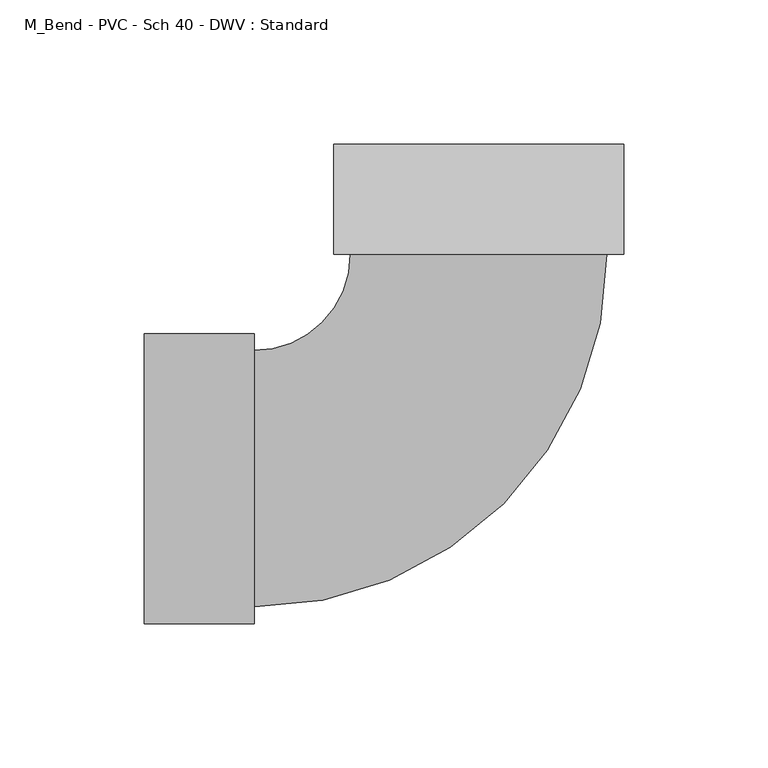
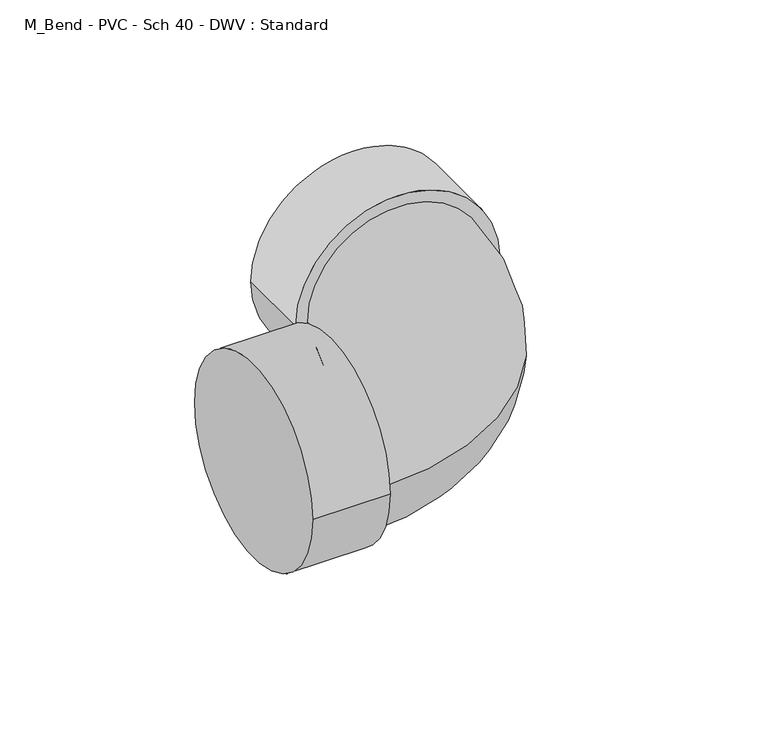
"""IFC4 building model written with IfcOpenShell, lengths in millimetres: pipe fitting geometry, M_Bend - PVC - Sch 40 - DWV : Standard."""

from ifc_helpers import new_model, si_unit, point, frame, origin, place, context, project, spatial, circle_curve, ellipse_curve, trimmed, source, transform, mapped, element, save
from ifc_brep_helpers import plane_surface, cylinder_surface, revolved_surface, advanced_brep


def m_bend_pvc_sch_40_dwv_standard_41353a0c(model_context):
    return source(origin(), model_context, "Body", "AdvancedBrep", [
        advanced_brep(
        [(-115.9002, -50.2666, 0.0), (-115.9002, 50.2666, 0.0), (-77.8002, -50.2666, 0.0), (-77.8002, 50.2666, 0.0), (-77.8002, -44.45, 0.0), (-77.8002, 44.45, 0.0), (-44.4487404, 77.8009196, 0.0), (44.4512596, 77.7994803, 0.0), (50.2678596, 77.7993862, 0.0), (-50.2653404, 77.8010138, 0.0), (50.2684765, 115.8993862, 0.0), (-50.2647235, 115.9010138, 0.0)],
        [
            (0, 1, circle_curve(frame((-115.9002, 0.0, 0.0), z_axis=(-1.0, 0.0, 0.0), x_axis=(0.0, 1.0, 0.0)), 50.2666)),
            (1, 0, circle_curve(frame((-115.9002, 0.0, 0.0), z_axis=(-1.0, 0.0, 0.0), x_axis=(0.0, 1.0, 0.0)), 50.2666)),
            (2, 3, circle_curve(frame((-77.8002, 0.0, 0.0), z_axis=(1.0, 0.0, 0.0), x_axis=(0.0, 1.0, 0.0)), 50.2666)),
            (3, 2, circle_curve(frame((-77.8002, 0.0, 0.0), z_axis=(1.0, 0.0, 0.0), x_axis=(0.0, 1.0, 0.0)), 50.2666)),
            (4, 5, circle_curve(frame((-77.8002, 0.0, 0.0), z_axis=(-1.0, 0.0, 0.0), x_axis=(0.0, 1.0, 0.0)), 44.45)),
            (5, 4, circle_curve(frame((-77.8002, 0.0, 0.0), z_axis=(-1.0, 0.0, 0.0), x_axis=(0.0, 1.0, 0.0)), 44.45)),
            (0, 2),
            (3, 1),
            (6, 5, circle_curve(frame((-77.8002, 77.8014596, 0.0), z_axis=(0.0, 0.0, -1.0), x_axis=(0.0, -1.0, 0.0)), 33.3514596)),
            (4, 7, circle_curve(frame((-77.8002, 77.8014596, 0.0), z_axis=(0.0, 0.0, 1.0), x_axis=(0.0, -1.0, 0.0)), 122.2514596)),
            (7, 6, circle_curve(frame((0.0012596, 77.8002, 0.0), z_axis=(-1.619028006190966e-05, -0.9999999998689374, 0.0), x_axis=(-0.9999999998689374, 1.619028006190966e-05, 0.0)), 44.45)),
            (6, 7, circle_curve(frame((0.0012596, 77.8002, 0.0), z_axis=(-1.619028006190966e-05, -0.9999999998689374, 0.0), x_axis=(-0.9999999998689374, 1.619028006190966e-05, 0.0)), 44.45)),
            (8, 9, circle_curve(frame((0.0012596, 77.8002, 0.0), z_axis=(-1.6190280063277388e-05, -0.9999999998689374, 0.0), x_axis=(-0.9999999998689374, 1.6190280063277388e-05, 0.0)), 50.2666)),
            (9, 8, circle_curve(frame((0.0012596, 77.8002, 0.0), z_axis=(-1.6190280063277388e-05, -0.9999999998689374, 0.0), x_axis=(-0.9999999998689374, 1.6190280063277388e-05, 0.0)), 50.2666)),
            (10, 11, circle_curve(frame((0.0018765, 115.9002, 0.0), z_axis=(1.6190280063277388e-05, 0.9999999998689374, 0.0), x_axis=(-0.9999999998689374, 1.6190280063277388e-05, 0.0)), 50.2666)),
            (11, 10, circle_curve(frame((0.0018765, 115.9002, 0.0), z_axis=(1.6190280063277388e-05, 0.9999999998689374, 0.0), x_axis=(-0.9999999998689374, 1.6190280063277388e-05, 0.0)), 50.2666)),
            (8, 10),
            (11, 9),
        ],
        [
            plane_surface(frame((-115.9002, 0.0, 0.0), z_axis=(-1.0, 0.0, 0.0), x_axis=(0.0, 0.0, 1.0))),
            plane_surface(frame((-77.8002, 0.0, 0.0), z_axis=(1.0, 0.0, 0.0), x_axis=(0.0, 0.0, 1.0))),
            cylinder_surface(frame((-115.9002, 0.0, 0.0), z_axis=(-1.0, 0.0, 0.0), x_axis=(0.0, 1.0, 0.0)), 50.2666),
            revolved_surface(trimmed(ellipse_curve(frame((-77.8002, 0.0, 0.0), z_axis=(-1.0, 0.0, 0.0), x_axis=(0.0, 1.0, 0.0)), 44.45, 44.45), [point((-77.8002, -44.45, 0.0))], [point((-77.8002, 44.45, 0.0))], True, "CARTESIAN"), (-77.8002, 77.8014596, 0.0), (0.0, 0.0, 1.0)),
            revolved_surface(trimmed(ellipse_curve(frame((-77.8002, 0.0, 0.0), z_axis=(-1.0, 0.0, 0.0), x_axis=(0.0, 1.0, 0.0)), 44.45, 44.45), [point((-77.8002, 44.45, 0.0))], [point((-77.8002, -44.45, 0.0))], True, "CARTESIAN"), (-77.8002, 77.8014596, 0.0), (0.0, 0.0, 1.0)),
            plane_surface(frame((0.0012596, 77.8002, 0.0), z_axis=(-1.6190280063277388e-05, -0.9999999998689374, 0.0), x_axis=(0.0, 0.0, 1.0))),
            plane_surface(frame((0.0018765, 115.9002, 0.0), z_axis=(1.6190280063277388e-05, 0.9999999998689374, 0.0), x_axis=(0.0, 0.0, 1.0))),
            cylinder_surface(frame((0.0012596, 77.8002, 0.0), z_axis=(-1.6190280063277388e-05, -0.9999999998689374, 0.0), x_axis=(-0.9999999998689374, 1.6190280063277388e-05, 0.0)), 50.2666),
        ],
        [
            (0, [[1, 2]]),
            (1, [[3, 4], [5, 6]]),
            (2, [[-1, 7, -4, 8]]),
            (2, [[-2, -8, -3, -7]]),
            (3, [[9, -5, 10, 11]]),
            (4, [[-9, 12, -10, -6]]),
            (5, [[13, 14], [-11, -12]]),
            (6, [[15, 16]]),
            (7, [[-13, 17, -16, 18]]),
            (7, [[-14, -18, -15, -17]]),
        ],
    ),
    ])


if __name__ == "__main__":
    model = new_model("IFC4")
    model_context = context("Model", 3, world=origin())
    ifc_project = project(units=[si_unit("LENGTHUNIT", "METRE", prefix="MILLI")], contexts=[model_context])
    site = spatial("IfcSite", under=ifc_project)
    building = spatial("IfcBuilding", under=site)
    placement = place(None, origin())
    m_bend_pvc_sch_40_dwv_standard_shape = m_bend_pvc_sch_40_dwv_standard_41353a0c(model_context)
    element("IfcPipeFitting", 1, ObjectType="M_Bend - PVC - Sch 40 - DWV : Standard", at=placement, inside=building, context=model_context, shape_type="MappedRepresentation", body=[
        mapped(m_bend_pvc_sch_40_dwv_standard_shape, transform((0.0, 0.0, 0.0), x_axis=(1.0, 0.0, 0.0), y_axis=(0.0, 1.0, 0.0), z_axis=(0.0, 0.0, 1.0))),
    ])
    save(model, "model.ifc")
